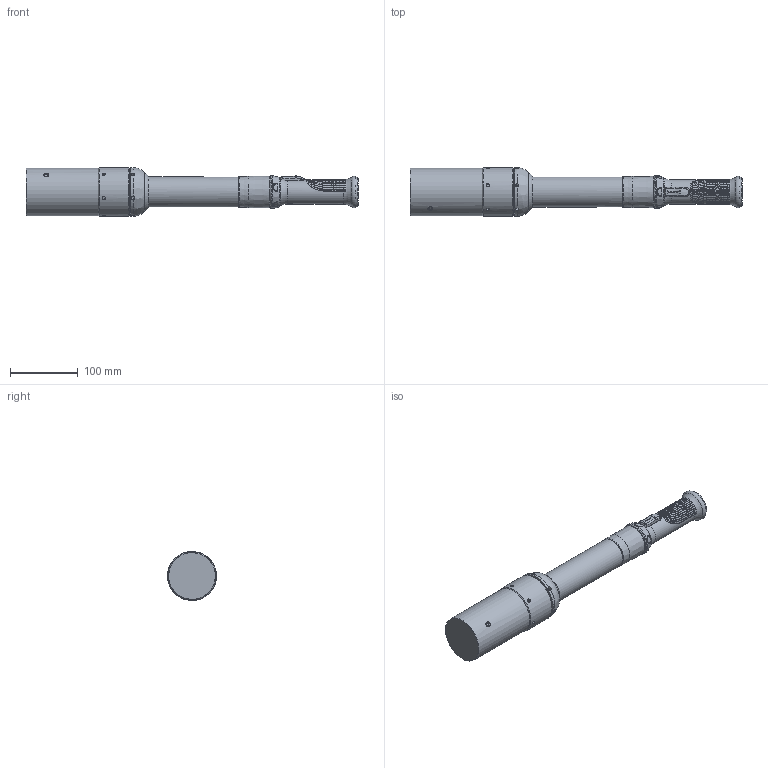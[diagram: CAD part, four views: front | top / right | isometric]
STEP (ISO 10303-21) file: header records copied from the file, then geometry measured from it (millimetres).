
FILE_DESCRIPTION(/* description */ (''),/* implementation_level */ '2;1');
FILE_NAME(/* name */ '10559656_A_SH10_STEP',/* time_stamp */ '2005-11-28T17:09:33+06:00',/* author */ (''),/* organization */ (''),/* preprocessor_version */ 'ST-DEVELOPER v9',/* originating_system */ 'EDS PLM SOLUTIONS - UNIGRAPHICS NX 2.0',/* authorisation */ '');
FILE_SCHEMA (('CONFIG_CONTROL_DESIGN'));
Length unit declared in the file: millimetre
Products named in the file (1): lgb54ACnsgk
Bounding box: 490.6 x 72.36 x 72.29 mm (x, y, z)
Volume: 1128279.1 mm3; surface area: 91827.3 mm2
Topology: 1 solids, 1 shells, 351 faces, 862 edges, 555 vertices
Faces by surface type: cylinder 95, cone 90, plane 66, torus 47, bspline 38, extrusion 14, sphere 1
Full cylindrical faces by diameter (mm): 4.978 x12, 6.731 x1, 36.068 x1, 41.758 x1, 42.672 x1, 44.45 x1, 48.514 x1, 55.88 x1, 66.548 x1, 69.85 x1, 72.39 x2
Entity records: 15410 total; most frequent: CARTESIAN_POINT 8253, ORIENTED_EDGE 1556, DIRECTION 1206, EDGE_CURVE 778, AXIS2_PLACEMENT_3D 551, VERTEX_POINT 526, EDGE_LOOP 448, B_SPLINE_CURVE_WITH_KNOTS 445
